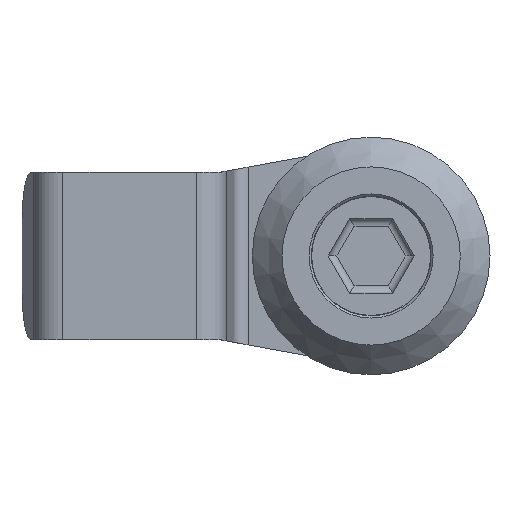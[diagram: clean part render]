
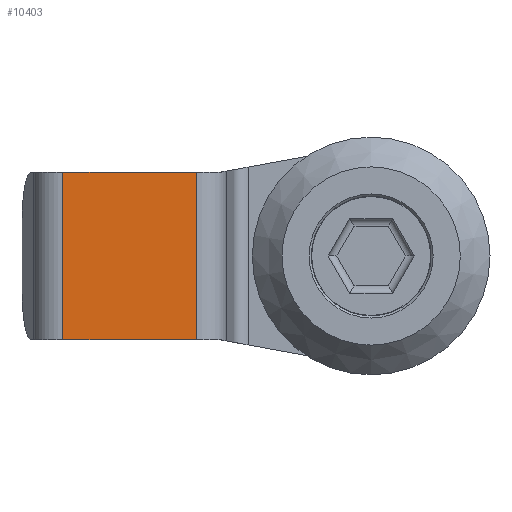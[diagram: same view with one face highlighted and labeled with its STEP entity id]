
A CAD part, front view. The second image highlights one B-rep face of the part: STEP entity #10403.
In plain terms, the highlighted planar face has unit normal (0, -1, 0) as drawn and (0, 0, 1) by its records, which use the part's own axes.
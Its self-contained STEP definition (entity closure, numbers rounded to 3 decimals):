
#10037=CARTESIAN_POINT('',(23.5,-11.25,15.0));
#10038=VERTEX_POINT('',#10037);
#10046=CARTESIAN_POINT('',(23.5,11.25,15.0));
#10047=VERTEX_POINT('',#10046);
#10048=CARTESIAN_POINT('',(23.5,-11.25,15.0));
#10049=DIRECTION('',(0.0,1.0,0.0));
#10050=VECTOR('',#10049,22.5);
#10051=LINE('',#10048,#10050);
#10052=EDGE_CURVE('',#10038,#10047,#10051,.T.);
#10123=CARTESIAN_POINT('',(41.5,11.25,15.0));
#10124=VERTEX_POINT('',#10123);
#10125=CARTESIAN_POINT('',(23.5,11.25,15.0));
#10126=DIRECTION('',(1.0,0.0,0.0));
#10127=VECTOR('',#10126,18.0);
#10128=LINE('',#10125,#10127);
#10129=EDGE_CURVE('',#10047,#10124,#10128,.T.);
#10293=CARTESIAN_POINT('',(41.5,-11.25,15.0));
#10294=VERTEX_POINT('',#10293);
#10302=CARTESIAN_POINT('',(23.5,-11.25,15.0));
#10303=DIRECTION('',(1.0,0.0,0.0));
#10304=VECTOR('',#10303,18.0);
#10305=LINE('',#10302,#10304);
#10306=EDGE_CURVE('',#10038,#10294,#10305,.T.);
#10383=CARTESIAN_POINT('',(41.5,-11.25,15.0));
#10384=DIRECTION('',(0.0,1.0,0.0));
#10385=VECTOR('',#10384,22.5);
#10386=LINE('',#10383,#10385);
#10387=EDGE_CURVE('',#10294,#10124,#10386,.T.);
#10392=CARTESIAN_POINT('',(23.5,-15.005,15.0));
#10393=DIRECTION('',(0.0,0.0,1.0));
#10394=DIRECTION('',(1.0,0.0,0.0));
#10395=AXIS2_PLACEMENT_3D('',#10392,#10393,#10394);
#10396=PLANE('',#10395);
#10397=ORIENTED_EDGE('',*,*,#10306,.T.);
#10398=ORIENTED_EDGE('',*,*,#10387,.T.);
#10399=ORIENTED_EDGE('',*,*,#10129,.F.);
#10400=ORIENTED_EDGE('',*,*,#10052,.F.);
#10401=EDGE_LOOP('',(#10397,#10398,#10399,#10400));
#10402=FACE_OUTER_BOUND('',#10401,.T.);
#10403=ADVANCED_FACE('',(#10402),#10396,.T.);
